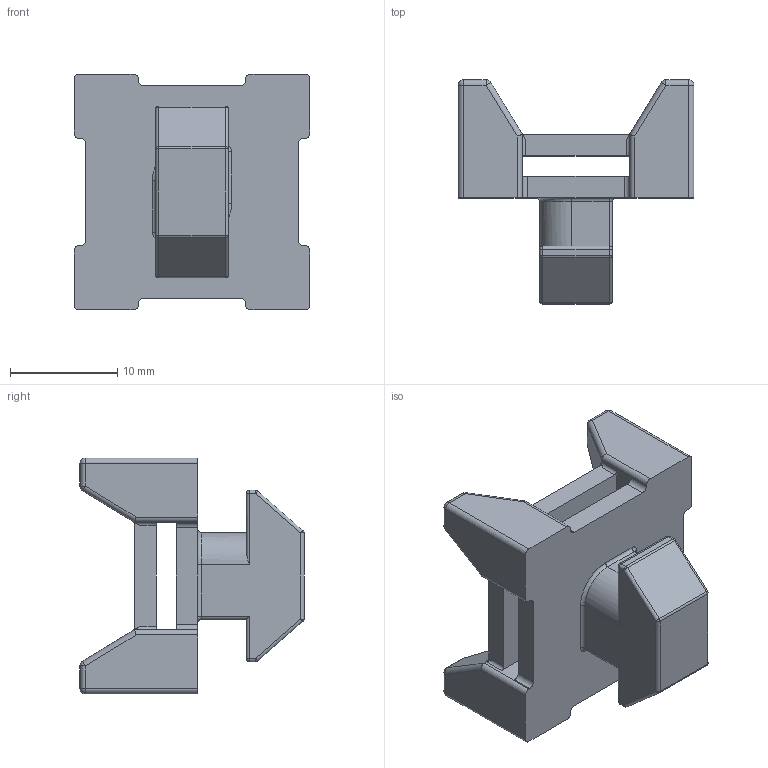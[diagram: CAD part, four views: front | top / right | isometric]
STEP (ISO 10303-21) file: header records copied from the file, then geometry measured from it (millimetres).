
FILE_DESCRIPTION (( 'STEP AP214' ), '1' );
FILE_NAME ('365.04.02À.01.STEP', '2024-06-20T08:46:45', ( '' ), ( '' ), 'SwSTEP 2.0', 'SolidWorks 2022', '' );
FILE_SCHEMA (( 'AUTOMOTIVE_DESIGN' ));
Length unit declared in the file: millimetre
Products named in the file (1): 365.04.02А.01
Bounding box: 22 x 20.9 x 22 mm (x, y, z)
Volume: 3147.6 mm3; surface area: 2681.7 mm2
Topology: 1 solids, 1 shells, 181 faces, 466 edges, 258 vertices
Faces by surface type: cylinder 92, plane 51, sphere 28, bspline 6, torus 4
Entity records: 5322 total; most frequent: CARTESIAN_POINT 1064, DIRECTION 918, ORIENTED_EDGE 884, EDGE_CURVE 442, AXIS2_PLACEMENT_3D 332, VERTEX_POINT 258, VECTOR 254, LINE 254
